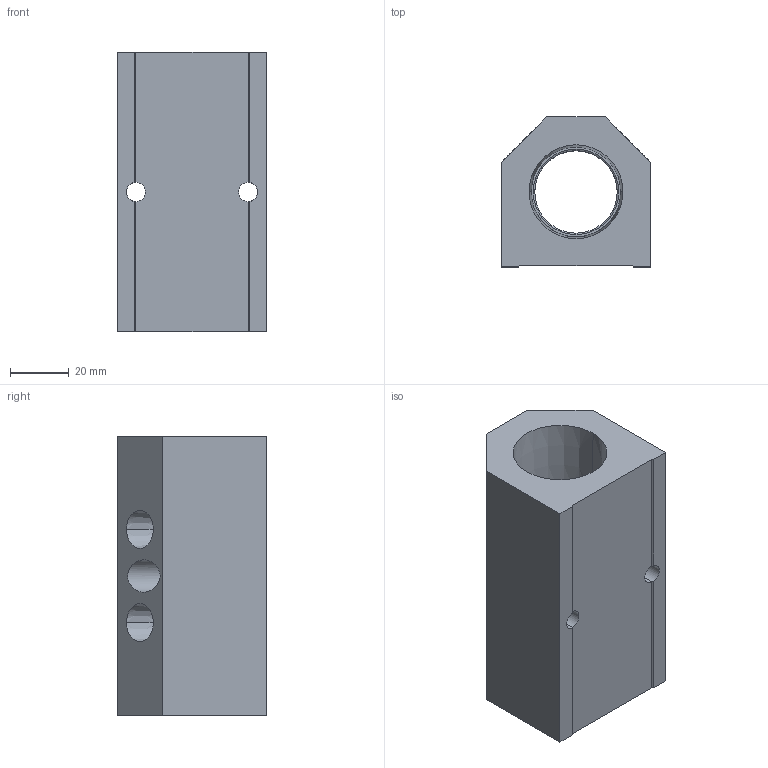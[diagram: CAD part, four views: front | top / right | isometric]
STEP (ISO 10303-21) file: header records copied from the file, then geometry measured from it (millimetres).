
FILE_DESCRIPTION (( 'STEP AP214' ), '1' );
FILE_NAME ('ALM2BD-N4N16-95B.STEP', '2023-11-02T06:32:20', ( '' ), ( '' ), 'SwSTEP 2.0', 'SolidWorks 2020', '' );
FILE_SCHEMA (( 'AUTOMOTIVE_DESIGN' ));
Length unit declared in the file: millimetre
Products named in the file (1): ALM2BD-N4N16-95B
Bounding box: 50.8 x 50.8 x 95 mm (x, y, z)
Volume: 145740.2 mm3; surface area: 32268.2 mm2
Topology: 1 solids, 1 shells, 287 faces, 744 edges, 492 vertices
Faces by surface type: plane 197, bspline 60, cone 16, cylinder 14
Entity records: 15435 total; most frequent: CARTESIAN_POINT 6104, ORIENTED_EDGE 1488, DIRECTION 1104, EDGE_CURVE 744, VECTOR 568, LINE 568, VERTEX_POINT 492, EDGE_LOOP 334
